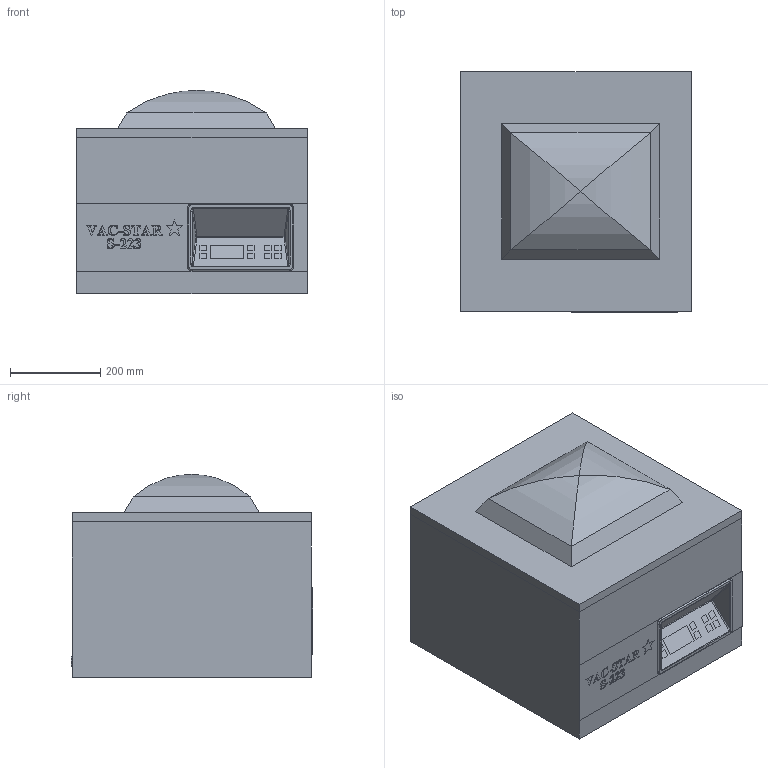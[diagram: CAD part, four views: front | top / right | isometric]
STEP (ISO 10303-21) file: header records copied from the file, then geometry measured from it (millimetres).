
FILE_DESCRIPTION(/* description */ ('Unknown'),/* implementation_level */ '2;1');
FILE_NAME(/* name */ 'C3D-S223-AA',/* time_stamp */ '2021-10-22T10:20:02+02:00',/* author */ ('Unknown'),/* organization */ ('Unknown'),/* preprocessor_version */ 'ST-DEVELOPER v16.7',/* originating_system */ 'Solid Edge',/* authorisation */ 'Unknown');
FILE_SCHEMA (('AUTOMOTIVE_DESIGN {1 0 10303 214 3 1 1}'));
Length unit declared in the file: millimetre
Products named in the file (1): R-VAC-STAR-S223
Bounding box: 510 x 534.51 x 450 mm (x, y, z)
Volume: 77797460.9 mm3; surface area: 2119771.9 mm2
Topology: 2 solids, 2 shells, 282 faces, 716 edges, 468 vertices
Faces by surface type: plane 209, bspline 40, cylinder 27, torus 4, sphere 2
Entity records: 13921 total; most frequent: CARTESIAN_POINT 5677, ORIENTED_EDGE 1428, DIRECTION 1082, EDGE_CURVE 714, LINE 488, VECTOR 488, VERTEX_POINT 468, EDGE_LOOP 314
